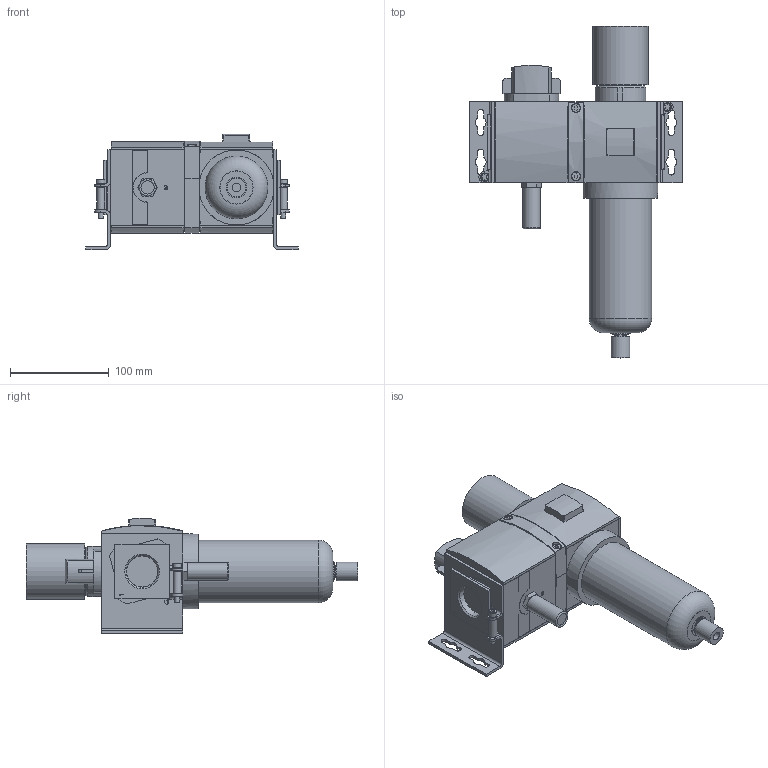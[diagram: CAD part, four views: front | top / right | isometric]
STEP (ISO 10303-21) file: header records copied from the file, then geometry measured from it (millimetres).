
FILE_DESCRIPTION( ( 'STEP AP214' ), '1' );
FILE_NAME( 'p:/temp/worker_95/temp/exporttempdir_580_101_VUYYt/format_0/13072020-160246_gen_28698.stp', '2020-02-13T15:07:47', ( '' ), ( '' ), ' ', 'PARTsolutions', ' ' );
FILE_SCHEMA( ( 'AUTOMOTIVE_DESIGN { 1 0 10303 214 1 1 1 1 }' ) );
Length unit declared in the file: millimetre
Products named in the file (16): 13072020-160246_gen_28698; _440562-004-006-F(L); _439489-001-0; _437742 KNOB-100_653; _653-M3MN; _440561-004-006-F(L); _G653ASLA0A00A00_LS; _439488-012-F(L); _653-438047-009; _439489-002-H; _503493-001; _510722-001-STANDARD_653; _507439-006-P; _653-440512-002; _8653ASLB0L00A00_LS; _8653ASLB0L00A00_RS
Assembly tree (17 placements, depth 2):
  13072020-160246_gen_28698
    _440562-004-006-F(L)
    _439489-001-0  x3
    _437742 KNOB-100_653
    _653-M3MN
    _440561-004-006-F(L)
    _G653ASLA0A00A00_LS
    _439488-012-F(L)
    _653-438047-009
    _439489-002-H
    _503493-001
    _510722-001-STANDARD_653
    _507439-006-P
    _653-440512-002
    _8653ASLB0L00A00_LS
    _8653ASLB0L00A00_RS
Bounding box: 214.98 x 335.95 x 116.41 mm (x, y, z)
Volume: 1982937.8 mm3; surface area: 303085.8 mm2
Topology: 17 solids, 17 shells, 1048 faces, 2591 edges, 1662 vertices
Faces by surface type: plane 660, cylinder 292, cone 69, torus 23, sphere 4
Full cylindrical faces by diameter (mm): 1.7 x2, 2.8 x2, 5 x8, 5.85 x4, 6.3 x4, 8 x2, 8.5 x4, 8.6 x1, 10 x4, 10.4 x1, 10.8 x4, 12 x4, 12.309 x1, 12.985 x1, 15.1 x1, 16.105 x1, 17.3 x1, 19 x1, 21.6 x1, 29.5 x1, 33.5 x1, 43 x1, 51 x1, 55.99 x1, 63.5 x1
Entity records: 38776 total; most frequent: CARTESIAN_POINT 5644, DIRECTION 5235, ORIENTED_EDGE 4840, EDGE_CURVE 2420, AXIS2_PLACEMENT_3D 1821, VERTEX_POINT 1627, LINE 1593, VECTOR 1593
